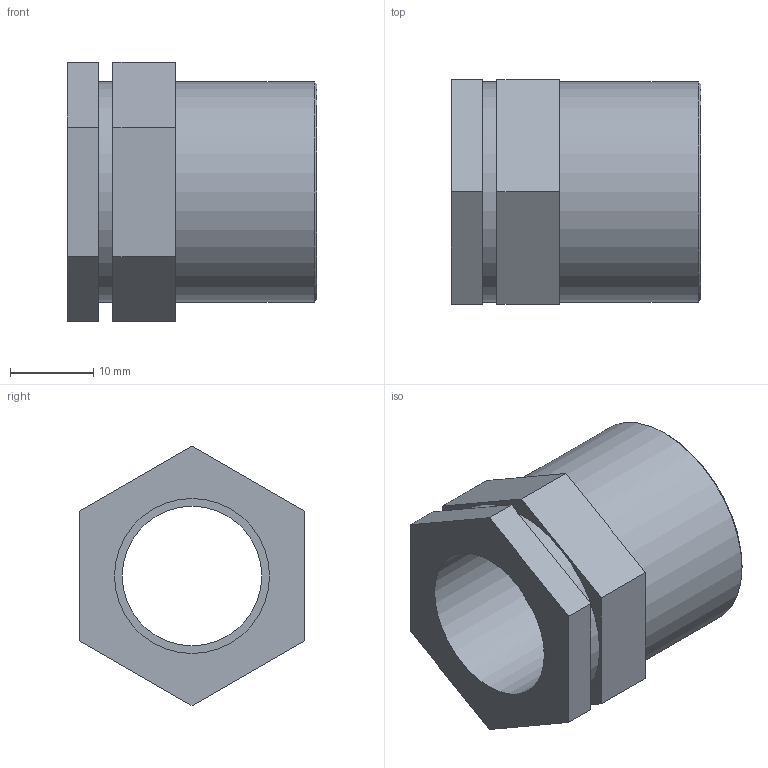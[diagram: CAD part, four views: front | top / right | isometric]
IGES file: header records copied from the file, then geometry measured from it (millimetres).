
Global section: file name: 050207007005_0502070070050A.ipt; native system: Autodesk Inventor 2015; preprocessor: unknown; author: KIM; date: 20170618.093109; units: millimetre
Bounding box: 30 x 27 x 31.18 mm (x, y, z)
Volume: 6408.3 mm3; surface area: 6185.8 mm2
Topology: 1 solids, 1 shells, 28 faces, 66 edges, 46 vertices
Faces by surface type: plane 20, revolution 4, cylinder 3, cone 1
Full cylindrical faces by diameter (mm): 22.357 x1, 26.441 x2
